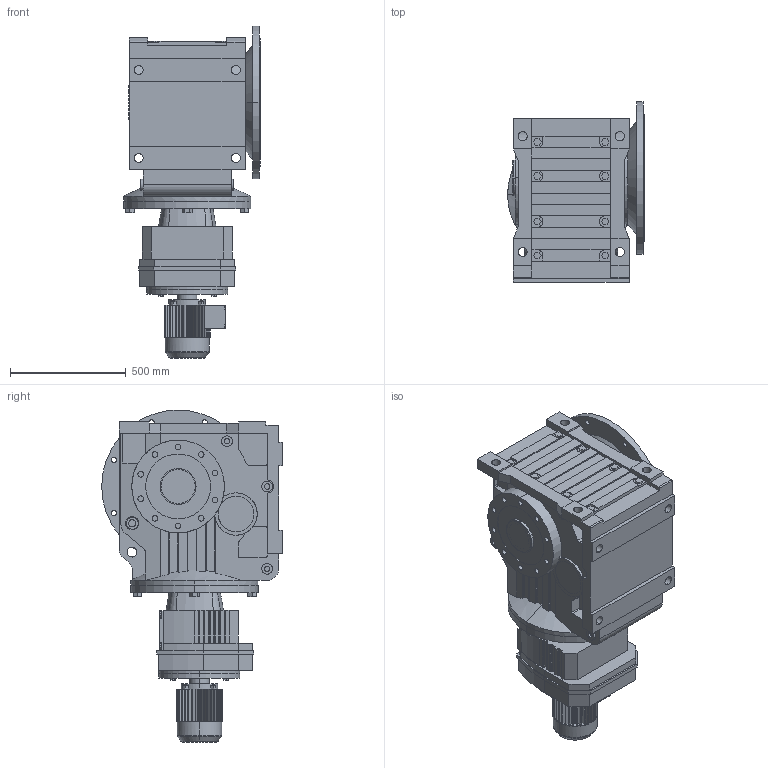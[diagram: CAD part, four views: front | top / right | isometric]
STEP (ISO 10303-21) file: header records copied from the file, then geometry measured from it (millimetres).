
FILE_DESCRIPTION(('Open CASCADE Model'),'2;1');
FILE_NAME('Open CASCADE Shape Model','2021-07-24T17:54:22',('Author'),( 'Open CASCADE'),'Open CASCADE STEP processor 6.3','Open CASCADE 6.3' ,'Unknown');
FILE_SCHEMA(('AUTOMOTIVE_DESIGN_CC2 { 1 2 10303 214 -1 1 5 4 }'));
Length unit declared in the file: millimetre
Products named in the file (6): 1_KAF157R107DV100M-A; KA127‵157_157.step; 萇儂_350-DV100M-295-380-197-166.step; R_157_107.step; す瑩諾陑粣K_157.step; 楊擘K_157.step
Assembly tree (5 placements, depth 2):
  1_KAF157R107DV100M-A
    KA127‵157_157.step
    萇儂_350-DV100M-295-380-197-166.step
    R_157_107.step
    す瑩諾陑粣K_157.step
    楊擘K_157.step
Bounding box: 591 x 780 x 1433 mm (x, y, z)
Volume: 246779042.2 mm3; surface area: 6068861.5 mm2
Topology: 5 solids, 5 shells, 1184 faces, 3116 edges, 2039 vertices
Faces by surface type: plane 792, cylinder 370, cone 18, torus 4
Entity records: 83993 total; most frequent: CARTESIAN_POINT 24700, DIRECTION 10170, ORIENTED_EDGE 6232, PCURVE 6232, DEFINITIONAL_REPRESENTATION 6232, LINE 5569, VECTOR 5569, EDGE_CURVE 3116
